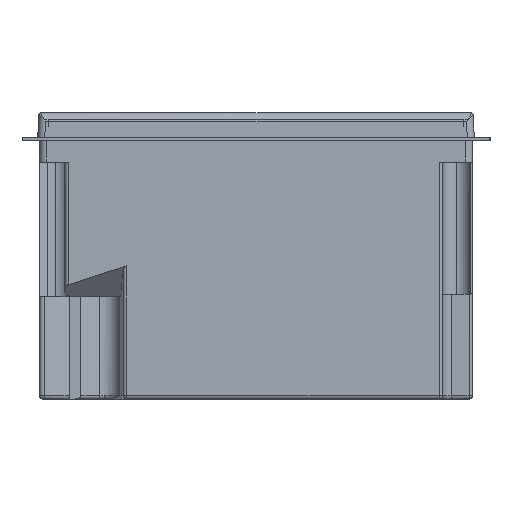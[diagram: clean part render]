
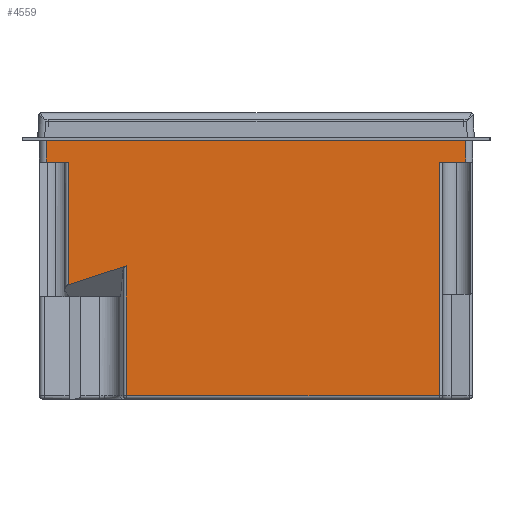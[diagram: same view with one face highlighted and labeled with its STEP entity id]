
A CAD part, left-side view. The second image highlights one B-rep face of the part: STEP entity #4559.
In plain terms, the highlighted planar face has unit normal (-1, 0, 0).
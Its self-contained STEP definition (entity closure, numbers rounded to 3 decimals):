
#569 = ORIENTED_EDGE ( 'NONE', *, *, #24940, .F. ) ;
#1000 = VECTOR ( 'NONE', #9696, 1000. ) ;
#1148 = LINE ( 'NONE', #16505, #1000 ) ;
#3156 = CARTESIAN_POINT ( 'NONE',  ( -106., 37.079, -74. ) ) ;
#3756 = DIRECTION ( 'NONE',  ( 0., 0., 1. ) ) ;
#4281 = VECTOR ( 'NONE', #30294, 1000. ) ;
#4559 = ADVANCED_FACE ( 'NONE', ( #44843 ), #38312, .T. ) ;
#4640 = VERTEX_POINT ( 'NONE', #36634 ) ;
#5676 = EDGE_CURVE ( 'NONE', #35122, #9252, #43686, .T. ) ;
#5808 = ORIENTED_EDGE ( 'NONE', *, *, #45885, .T. ) ;
#6524 = VECTOR ( 'NONE', #22546, 1000. ) ;
#6570 = LINE ( 'NONE', #23655, #6524 ) ;
#6720 = LINE ( 'NONE', #22593, #7417 ) ;
#7308 = CARTESIAN_POINT ( 'NONE',  ( -106., -60., -75. ) ) ;
#7417 = VECTOR ( 'NONE', #22844, 1000. ) ;
#9252 = VERTEX_POINT ( 'NONE', #10581 ) ;
#9696 = DIRECTION ( 'NONE',  ( 0., -1., 0. ) ) ;
#10581 = CARTESIAN_POINT ( 'NONE',  ( -106., 60., -7.1 ) ) ;
#12371 = ORIENTED_EDGE ( 'NONE', *, *, #49487, .T. ) ;
#14185 = VERTEX_POINT ( 'NONE', #17889 ) ;
#14577 = CARTESIAN_POINT ( 'NONE',  ( -106., 37.079, -75. ) ) ;
#14643 = DIRECTION ( 'NONE',  ( 0., 0., -1. ) ) ;
#15530 = CARTESIAN_POINT ( 'NONE',  ( -106., 53.691, -42.208 ) ) ;
#16154 = VECTOR ( 'NONE', #29566, 1000. ) ;
#16505 = CARTESIAN_POINT ( 'NONE',  ( -106., 62., -1. ) ) ;
#16527 = LINE ( 'NONE', #30280, #16154 ) ;
#16869 = ORIENTED_EDGE ( 'NONE', *, *, #5676, .F. ) ;
#17298 = VERTEX_POINT ( 'NONE', #32852 ) ;
#17484 = CARTESIAN_POINT ( 'NONE',  ( -106., -52.5, -7.1 ) ) ;
#17737 = ORIENTED_EDGE ( 'NONE', *, *, #19844, .F. ) ;
#17889 = CARTESIAN_POINT ( 'NONE',  ( -106., 37.079, -36.8 ) ) ;
#18025 = VECTOR ( 'NONE', #52860, 1000. ) ;
#18055 = LINE ( 'NONE', #52225, #18025 ) ;
#18423 = LINE ( 'NONE', #43400, #27464 ) ;
#18810 = VECTOR ( 'NONE', #14643, 1000. ) ;
#18896 = LINE ( 'NONE', #14577, #18810 ) ;
#19844 = EDGE_CURVE ( 'NONE', #41764, #22630, #18423, .T. ) ;
#20415 = CARTESIAN_POINT ( 'NONE',  ( -106., -60., -7.1 ) ) ;
#22546 = DIRECTION ( 'NONE',  ( 0., -1., 0. ) ) ;
#22593 = CARTESIAN_POINT ( 'NONE',  ( -106., -41.26, -11.296 ) ) ;
#22630 = VERTEX_POINT ( 'NONE', #17484 ) ;
#22750 = ORIENTED_EDGE ( 'NONE', *, *, #45843, .T. ) ;
#22844 = DIRECTION ( 'NONE',  ( 0., -0.951, 0.31 ) ) ;
#23655 = CARTESIAN_POINT ( 'NONE',  ( -106., -53.5, -74. ) ) ;
#24940 = EDGE_CURVE ( 'NONE', #49601, #4640, #1148, .T. ) ;
#25318 = CARTESIAN_POINT ( 'NONE',  ( -106., 53.691, -7.1 ) ) ;
#27464 = VECTOR ( 'NONE', #42975, 1000. ) ;
#27492 = EDGE_CURVE ( 'NONE', #49601, #9252, #47220, .T. ) ;
#29191 = CARTESIAN_POINT ( 'NONE',  ( -106., 60., -1. ) ) ;
#29566 = DIRECTION ( 'NONE',  ( 0., 0., 1. ) ) ;
#30243 = CARTESIAN_POINT ( 'NONE',  ( -106., 62., -7.1 ) ) ;
#30280 = CARTESIAN_POINT ( 'NONE',  ( -106., -52.5, -75. ) ) ;
#30294 = DIRECTION ( 'NONE',  ( 0., 1., 0. ) ) ;
#31316 = ORIENTED_EDGE ( 'NONE', *, *, #44526, .T. ) ;
#32852 = CARTESIAN_POINT ( 'NONE',  ( -106., -52.5, -74. ) ) ;
#35122 = VERTEX_POINT ( 'NONE', #25318 ) ;
#36634 = CARTESIAN_POINT ( 'NONE',  ( -106., -60., -1. ) ) ;
#36662 = VERTEX_POINT ( 'NONE', #15530 ) ;
#37077 = ORIENTED_EDGE ( 'NONE', *, *, #49595, .T. ) ;
#37614 = CARTESIAN_POINT ( 'NONE',  ( -106., -62., -75. ) ) ;
#38278 = DIRECTION ( 'NONE',  ( -1., 0., 0. ) ) ;
#38312 = PLANE ( 'NONE',  #49781 ) ;
#38383 = EDGE_CURVE ( 'NONE', #41764, #4640, #42271, .T. ) ;
#38851 = CARTESIAN_POINT ( 'NONE',  ( -106., 60., -75. ) ) ;
#39395 = EDGE_LOOP ( 'NONE', ( #569, #39922, #16869, #12371, #22750, #31316, #5808, #37077, #17737, #40901 ) ) ;
#39922 = ORIENTED_EDGE ( 'NONE', *, *, #27492, .T. ) ;
#40665 = DIRECTION ( 'NONE',  ( 0., 0., -1. ) ) ;
#40901 = ORIENTED_EDGE ( 'NONE', *, *, #38383, .T. ) ;
#41764 = VERTEX_POINT ( 'NONE', #20415 ) ;
#42078 = VECTOR ( 'NONE', #3756, 1000. ) ;
#42271 = LINE ( 'NONE', #7308, #42078 ) ;
#42975 = DIRECTION ( 'NONE',  ( 0., 1., 0. ) ) ;
#43400 = CARTESIAN_POINT ( 'NONE',  ( -106., -53.5, -7.1 ) ) ;
#43686 = LINE ( 'NONE', #30243, #4281 ) ;
#44526 = EDGE_CURVE ( 'NONE', #14185, #46621, #18896, .T. ) ;
#44843 = FACE_OUTER_BOUND ( 'NONE', #39395, .T. ) ;
#45843 = EDGE_CURVE ( 'NONE', #36662, #14185, #6720, .T. ) ;
#45885 = EDGE_CURVE ( 'NONE', #46621, #17298, #6570, .T. ) ;
#46621 = VERTEX_POINT ( 'NONE', #3156 ) ;
#47050 = VECTOR ( 'NONE', #40665, 1000. ) ;
#47220 = LINE ( 'NONE', #38851, #47050 ) ;
#47440 = DIRECTION ( 'NONE',  ( 0., 0., 1. ) ) ;
#49487 = EDGE_CURVE ( 'NONE', #35122, #36662, #18055, .T. ) ;
#49595 = EDGE_CURVE ( 'NONE', #17298, #22630, #16527, .T. ) ;
#49601 = VERTEX_POINT ( 'NONE', #29191 ) ;
#49781 = AXIS2_PLACEMENT_3D ( 'NONE', #37614, #38278, #47440 ) ;
#52225 = CARTESIAN_POINT ( 'NONE',  ( -106., 53.691, -75. ) ) ;
#52860 = DIRECTION ( 'NONE',  ( 0., 0., -1. ) ) ;
